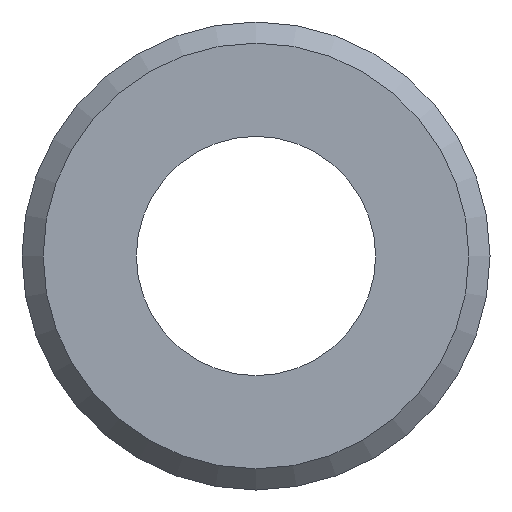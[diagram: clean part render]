
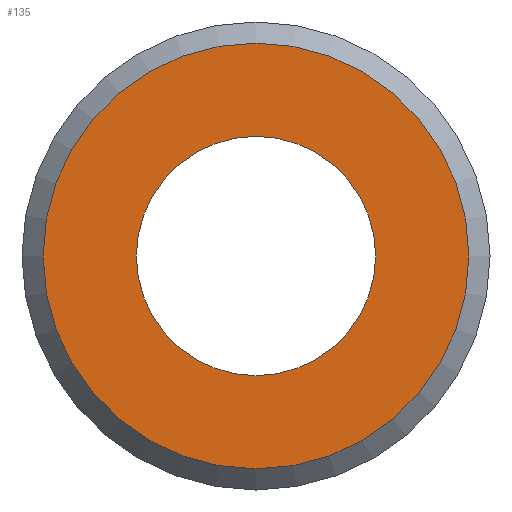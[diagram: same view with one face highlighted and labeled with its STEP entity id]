
A CAD part, left-side view. The second image highlights one B-rep face of the part: STEP entity #135.
In plain terms, the highlighted planar face has unit normal (-1, 0, 0).
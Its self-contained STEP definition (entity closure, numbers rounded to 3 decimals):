
#73=CARTESIAN_POINT('',(0.,15.125,0.));
#74=VERTEX_POINT('',#73);
#75=CARTESIAN_POINT('',(0.,0.0,0.0));
#76=DIRECTION('',(1.0,0.0,0.0));
#77=DIRECTION('',(0.0,-1.0,0.0));
#78=AXIS2_PLACEMENT_3D('',#75,#76,#77);
#79=CIRCLE('',#78,15.125);
#80=EDGE_CURVE('',#74,#74,#79,.T.);
#116=CARTESIAN_POINT('',(0.,12.562,0.0));
#117=DIRECTION('',(-1.0,0.0,0.0));
#118=DIRECTION('',(0.0,0.0,1.0));
#119=AXIS2_PLACEMENT_3D('',#116,#117,#118);
#120=PLANE('',#119);
#121=ORIENTED_EDGE('',*,*,#80,.F.);
#122=EDGE_LOOP('',(#121));
#123=FACE_OUTER_BOUND('',#122,.T.);
#124=CARTESIAN_POINT('',(0.,8.5,0.0));
#125=VERTEX_POINT('',#124);
#126=CARTESIAN_POINT('',(0.,0.0,0.0));
#127=DIRECTION('',(1.0,0.0,0.0));
#128=DIRECTION('',(0.0,1.0,0.0));
#129=AXIS2_PLACEMENT_3D('',#126,#127,#128);
#130=CIRCLE('',#129,8.5);
#131=EDGE_CURVE('',#125,#125,#130,.T.);
#132=ORIENTED_EDGE('',*,*,#131,.T.);
#133=EDGE_LOOP('',(#132));
#134=FACE_BOUND('',#133,.T.);
#135=ADVANCED_FACE('',(#123,#134),#120,.T.);
